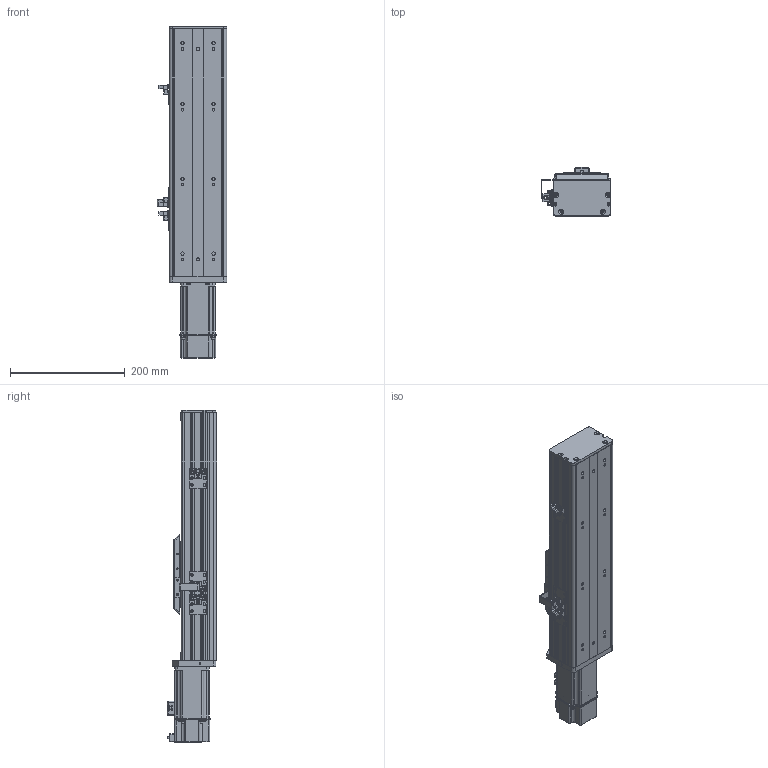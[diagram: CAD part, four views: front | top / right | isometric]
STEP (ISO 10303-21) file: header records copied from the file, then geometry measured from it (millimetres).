
FILE_DESCRIPTION (( 'STEP AP203' ), '1' );
FILE_NAME ('BOSW100-200-1610-1P-CM-M400W-O-S3（方程式2016）.step', '2020-10-10T06:30:21', ( '' ), ( '' ), 'SwSTEP 2.0', 'SolidWorks 2016', '' );
FILE_SCHEMA (( 'CONFIG_CONTROL_DESIGN' ));
Length unit declared in the file: millimetre
Products named in the file (13): 新结构AIMSW-100-1P-宽&高轨共用-滑动座上组件; BOSW-100-1P-CM-宽轨-钢带-200客户图纸; 俋境嫖覜嘐隅啣; BOSW-100-1P-CM-宽轨-侧板-200客户图纸; BOSW&TW-100-詩湍揤沭(陔賦凳); BOSW-100-綴裔啣; 放大器内置U型微型光电传感器PM-L65; BOSW-100-CM-宽轨-三菱M200W&400W马达板(新结构); BOSW&TW-100-1P-賑雄釱欶; S400W(SMA-L040); BOSW&TW-100-俋离覜茼え; BOSW100-200-1610-1P-CM-M400W-O-S3（方程式2016）; BOSW-100-1P-CM-200諦誧芞
Assembly tree (18 placements, depth 2):
  BOSW100-200-1610-1P-CM-M400W-O-S3（方程式2016）
    BOSW-100-1P-CM-200諦誧芞
    BOSW-100-綴裔啣
    新结构AIMSW-100-1P-宽&高轨共用-滑动座上组件
    S400W(SMA-L040)
    BOSW&TW-100-詩湍揤沭(陔賦凳)  x2
    BOSW&TW-100-1P-賑雄釱欶
    BOSW&TW-100-俋离覜茼え
    俋境嫖覜嘐隅啣  x3
    放大器内置U型微型光电传感器PM-L65  x3
    BOSW-100-CM-宽轨-三菱M200W&400W马达板(新结构)
    BOSW-100-1P-CM-宽轨-侧板-200客户图纸  x2
    BOSW-100-1P-CM-宽轨-钢带-200客户图纸
Bounding box: 120.9 x 85.5 x 577.8 mm (x, y, z)
Volume: 1176112.2 mm3; surface area: 542598.7 mm2
Topology: 18 solids, 18 shells, 2467 faces, 6492 edges, 4137 vertices
Faces by surface type: plane 1218, cylinder 765, bspline 271, cone 165, torus 36, sphere 12
Entity records: 67060 total; most frequent: CARTESIAN_POINT 20306, ORIENTED_EDGE 9524, DIRECTION 9224, EDGE_CURVE 4762, AXIS2_PLACEMENT_3D 3270, VERTEX_POINT 3039, LINE 2684, VECTOR 2684
